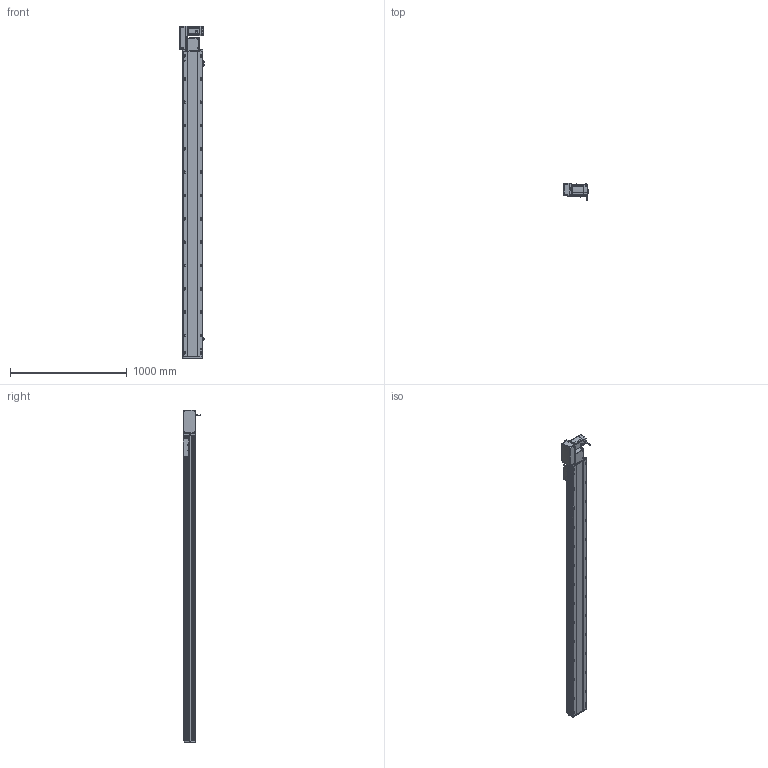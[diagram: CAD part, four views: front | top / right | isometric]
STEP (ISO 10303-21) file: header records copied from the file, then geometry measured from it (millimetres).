
FILE_DESCRIPTION (( 'STEP AP214' ), '1' );
FILE_NAME ('RTB17S-XX-2350-L-M75-C4.STEP', '2025-12-12T00:20:58', ( '' ), ( '' ), 'SwSTEP 2.0', 'SolidWorks 2018', '' );
FILE_SCHEMA (( 'AUTOMOTIVE_DESIGN' ));
Length unit declared in the file: millimetre
Products named in the file (15): RTB17S-L-々湍釱蚾饜-750W^RTB17S-XX-XX-L-M75-C4; RTB17S-賑釱^RTB17S-XX-XX-L-M75-C4; RTB17-R-011菁釱^RTB17S-XX-XX-L-M75-C4; RTB22S-GY-018P^RTB17S-L-々湍釱蚾饜-750W_RTB17S-XX-XX-L-M75-C4; RTB22S-GY-017P^RTB17S-L-々湍釱蚾饜-750W_RTB17S-XX-XX-L-M75-C4; RTB17S-L-004-賑釱^RTB17S-賑釱_RTB17S-XX-XX-L-M75-C4; RTB22S-GY-008-M75--萇儂啣^RTB17S-L-々湍釱蚾饜-750W_RTB17S-XX-XX-L-M75-C4; RTB17S-L-007奻裔^RTB17S-XX-XX-L-M75-C4; RTB17S-L-001-耜醱啣^RTB17S-XX-XX-L-M75-C4; RTH13-BL-012覜茼え俋离^RTB17S-賑釱_RTB17S-XX-XX-L-M75-C4; RTB22S-GY-005P^RTB17S-L-々湍釱蚾饜-750W_RTB17S-XX-XX-L-M75-C4; RMP17S-L-014-T20-P75--々湍釱^RTB17S-L-々湍釱蚾饜-750W_RTB17S-XX-XX-L-M75-C4; 750W萇儂^RTB17S-XX-XX-L-M75-C4; RTB17S-XX-2350-L-M75-C4; EE672^RTB17S-XX-XX-L-M75-C4
Assembly tree (17 placements, depth 3):
  RTB17S-XX-2350-L-M75-C4
    RTB17-R-011菁釱^RTB17S-XX-XX-L-M75-C4
    EE672^RTB17S-XX-XX-L-M75-C4  x3
    RTB17S-L-001-耜醱啣^RTB17S-XX-XX-L-M75-C4
    RTB17S-賑釱^RTB17S-XX-XX-L-M75-C4
      RTB17S-L-004-賑釱^RTB17S-賑釱_RTB17S-XX-XX-L-M75-C4
      RTH13-BL-012覜茼え俋离^RTB17S-賑釱_RTB17S-XX-XX-L-M75-C4
    RTB17S-L-007奻裔^RTB17S-XX-XX-L-M75-C4
    750W萇儂^RTB17S-XX-XX-L-M75-C4
    RTB17S-L-々湍釱蚾饜-750W^RTB17S-XX-XX-L-M75-C4
      RMP17S-L-014-T20-P75--々湍釱^RTB17S-L-々湍釱蚾饜-750W_RTB17S-XX-XX-L-M75-C4
      RTB22S-GY-005P^RTB17S-L-々湍釱蚾饜-750W_RTB17S-XX-XX-L-M75-C4
      RTB22S-GY-017P^RTB17S-L-々湍釱蚾饜-750W_RTB17S-XX-XX-L-M75-C4  x2
      RTB22S-GY-008-M75--萇儂啣^RTB17S-L-々湍釱蚾饜-750W_RTB17S-XX-XX-L-M75-C4
      RTB22S-GY-018P^RTB17S-L-々湍釱蚾饜-750W_RTB17S-XX-XX-L-M75-C4
Bounding box: 210.4 x 152.7 x 2849 mm (x, y, z)
Volume: 20640203.5 mm3; surface area: 3729163.5 mm2
Topology: 17 solids, 17 shells, 2201 faces, 6160 edges, 3986 vertices
Faces by surface type: plane 984, cylinder 801, bspline 294, cone 110, sphere 8, torus 4
Entity records: 63478 total; most frequent: CARTESIAN_POINT 18824, ORIENTED_EDGE 9164, DIRECTION 8492, EDGE_CURVE 4582, AXIS2_PLACEMENT_3D 3006, VERTEX_POINT 2990, VECTOR 2480, LINE 2480
